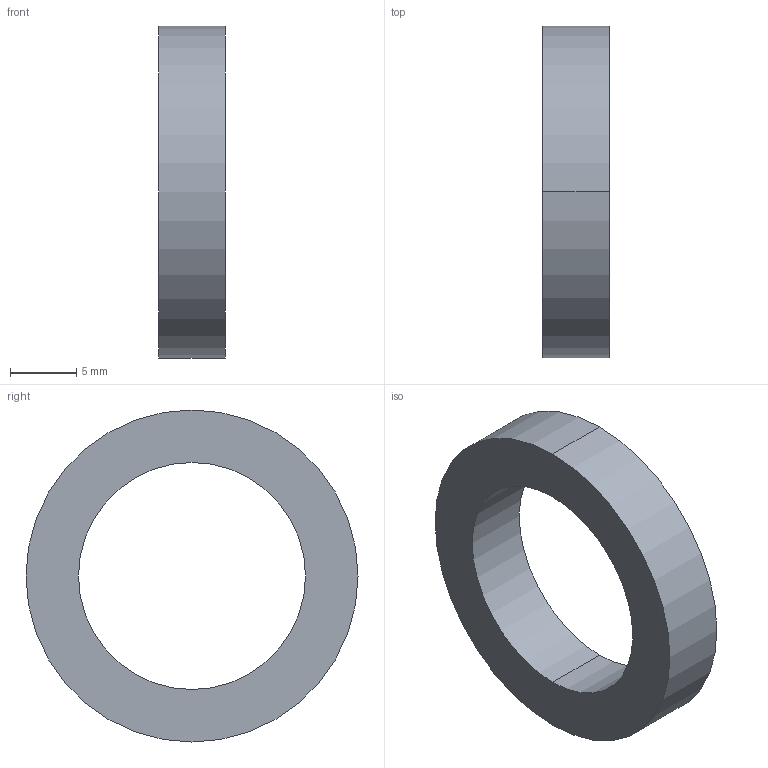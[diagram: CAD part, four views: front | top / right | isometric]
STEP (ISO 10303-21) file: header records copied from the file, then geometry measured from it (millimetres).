
FILE_DESCRIPTION (( 'STEP AP203' ), '1' );
FILE_NAME ('084.800.015.STEP', '2013-01-29T09:20:49', ( 'Alusic' ), ( 'Alusic' ), 'SwSTEP 2.0', 'SolidWorks 2011', '' );
FILE_SCHEMA (( 'CONFIG_CONTROL_DESIGN' ));
Length unit declared in the file: millimetre
Products named in the file (1): 084.800.015
Bounding box: 5 x 25 x 25 mm (x, y, z)
Volume: 1306.1 mm3; surface area: 1183.7 mm2
Topology: 1 solids, 1 shells, 6 faces, 12 edges, 8 vertices
Faces by surface type: cylinder 4, plane 2
Entity records: 245 total; most frequent: DIRECTION 34, CARTESIAN_POINT 27, ORIENTED_EDGE 24, AXIS2_PLACEMENT_3D 15, EDGE_CURVE 12, CIRCLE 8, VERTEX_POINT 8, PERSON_AND_ORGANIZATION 8
